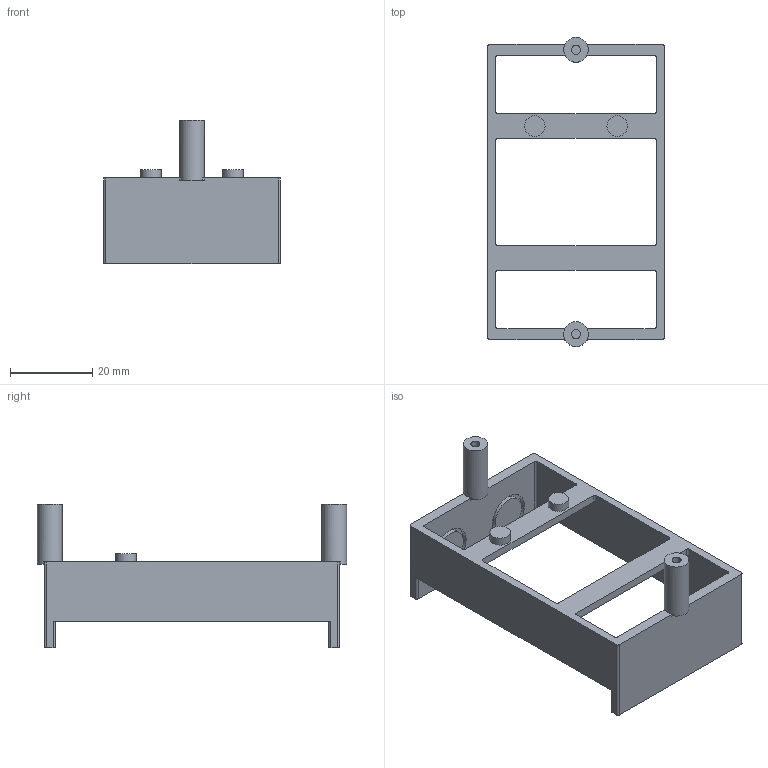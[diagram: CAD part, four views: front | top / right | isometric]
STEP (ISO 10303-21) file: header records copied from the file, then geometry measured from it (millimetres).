
FILE_DESCRIPTION(('Open CASCADE Model'),'2;1');
FILE_NAME('Open CASCADE Shape Model','2026-11-01T16:34:15',('Author'),( 'Open CASCADE'),'Open CASCADE STEP processor 8.0','build123d', 'Unknown');
FILE_SCHEMA(('AUTOMOTIVE_DESIGN { 1 0 10303 214 1 1 1 1 }'));
Length unit declared in the file: millimetre
Products named in the file (1): SOLID
Bounding box: 42.9 x 75 x 34.9 mm (x, y, z)
Volume: 10127 mm3; surface area: 10803.7 mm2
Topology: 1 solids, 3 shells, 83 faces, 248 edges, 176 vertices
Faces by surface type: cylinder 44, plane 39
Full cylindrical faces by diameter (mm): 2.2 x2, 5 x2, 6 x2, 9 x6, 11 x4
Entity records: 6212 total; most frequent: CARTESIAN_POINT 1212, DIRECTION 968, LINE 520, VECTOR 520, ORIENTED_EDGE 496, PCURVE 496, DEFINITIONAL_REPRESENTATION 496, EDGE_CURVE 248
